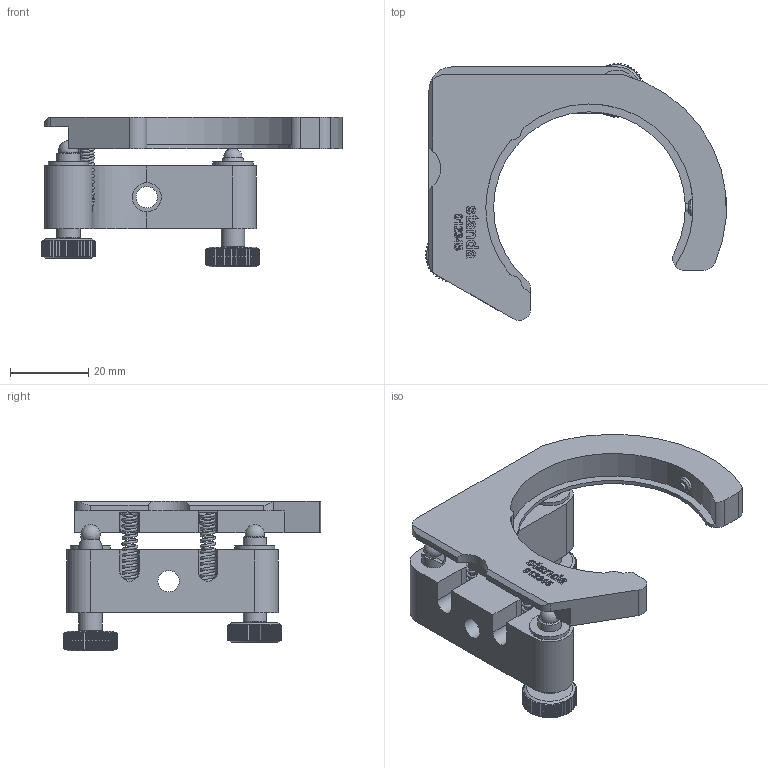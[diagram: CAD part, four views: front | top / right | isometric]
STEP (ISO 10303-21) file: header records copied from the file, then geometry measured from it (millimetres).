
FILE_DESCRIPTION((''),'2;1');
FILE_NAME('D:\Darius\Schemos\05\5F21\5F21M-2\step\5F21M-2.stp','2013-04-17T10:46:43',('Darius.M'),(''),'Autodesk Inventor 2013','Autodesk Inventor 2013','');
FILE_SCHEMA(('AUTOMOTIVE_DESIGN { 1 0 10303 214 1 1 1 1 }'));
Length unit declared in the file: millimetre
Products named in the file (1): 5F21M-2
Bounding box: 76.9 x 65.71 x 38.21 mm (x, y, z)
Volume: 31134.6 mm3; surface area: 15484 mm2
Topology: 1 solids, 6 shells, 1284 faces, 3653 edges, 2420 vertices
Faces by surface type: plane 495, cylinder 450, bspline 283, cone 43, sphere 8, torus 5
Full cylindrical faces by diameter (mm): 0.7 x3, 1 x2, 1.5 x2, 2 x4, 2.5 x1, 3 x2, 3.242 x1, 4 x1, 5 x2, 5.459 x2, 6 x4, 7.4 x2, 10.3 x2, 13.2 x4
Entity records: 49753 total; most frequent: CARTESIAN_POINT 20087, ORIENTED_EDGE 7010, DIRECTION 4293, EDGE_CURVE 3505, VERTEX_POINT 2355, VECTOR 1505, LINE 1505, EDGE_LOOP 1447
